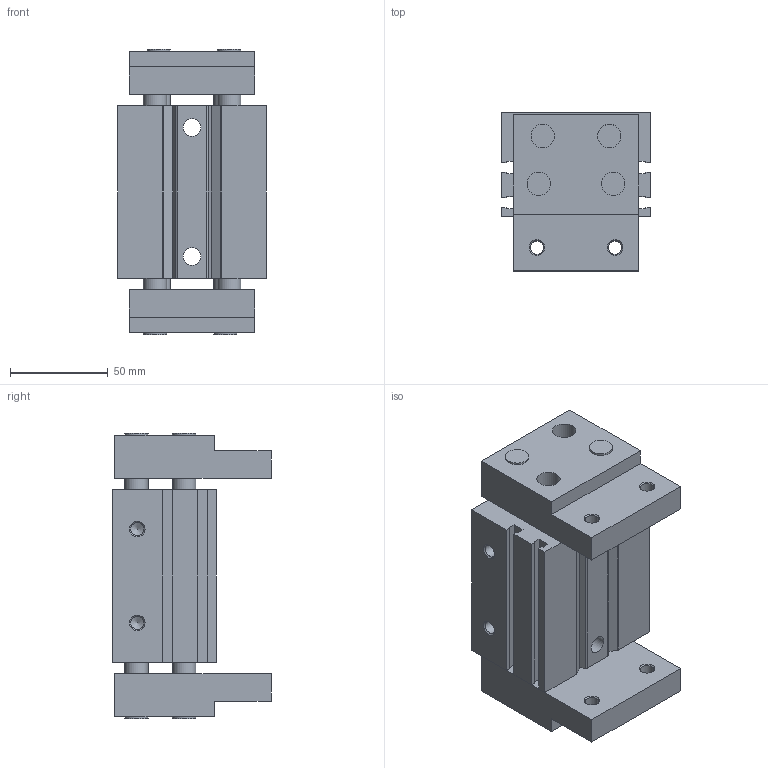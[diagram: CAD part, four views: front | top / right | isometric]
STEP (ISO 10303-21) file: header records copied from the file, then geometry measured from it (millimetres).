
FILE_DESCRIPTION( ( 'STEP AP214' ), '1' );
FILE_NAME( 'C:/Users/ashearer/Desktop/Mindman New CAD/Grippers/MCHX-25-50M_100_.stp', ' ', ( ' ' ), ( ' ' ), 'PSStep 15.0.47', 'PARTsolutions', ' ' );
FILE_SCHEMA( ( 'AUTOMOTIVE_DESIGN { 1 0 10303 214 1 1 1 1 }' ) );
Length unit declared in the file: millimetre
Products named in the file (3): MCHX-25-50M(100); _MCHX-25-50M_b; _MCHX-25-50M_f
Assembly tree (3 placements, depth 2):
  MCHX-25-50M(100)
    _MCHX-25-50M_b
    _MCHX-25-50M_f  x2
Bounding box: 76 x 81 x 146 mm (x, y, z)
Volume: 518755.8 mm3; surface area: 103807.5 mm2
Topology: 3 solids, 3 shells, 135 faces, 336 edges, 218 vertices
Faces by surface type: plane 73, cylinder 38, cone 24
Full cylindrical faces by diameter (mm): 4 x1, 4.134 x2, 6.647 x6, 6.917 x4, 9 x2, 12 x16, 32 x1
Entity records: 4036 total; most frequent: DIRECTION 530, CARTESIAN_POINT 523, ORIENTED_EDGE 456, EDGE_CURVE 228, AXIS2_PLACEMENT_3D 187, EDGE_LOOP 182, VERTEX_POINT 180, LINE 156
